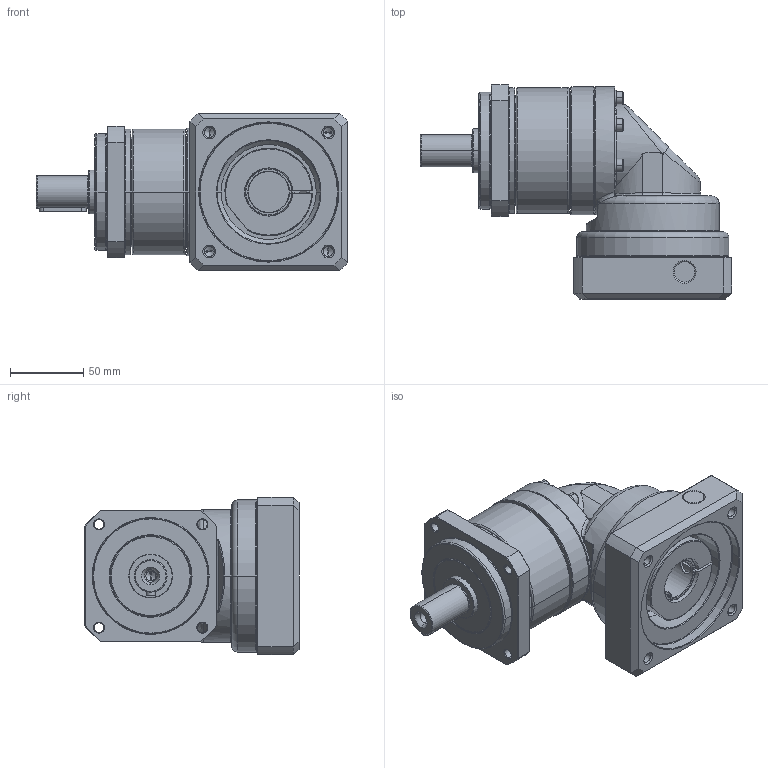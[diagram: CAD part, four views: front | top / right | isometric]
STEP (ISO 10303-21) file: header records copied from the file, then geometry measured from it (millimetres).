
FILE_DESCRIPTION((''),'2;1');
FILE_NAME('PA2R-090_1ST_28-P0411600101_ASM','2016-05-12T',('d01943'),(''),'PRO/ENGINEER BY PARAMETRIC TECHNOLOGY CORPORATION, 2008410','PRO/ENGINEER BY PARAMETRIC TECHNOLOGY CORPORATION, 2008410','');
FILE_SCHEMA(('CONFIG_CONTROL_DESIGN'));
Length unit declared in the file: millimetre
Products named in the file (12): P1327310001; P0250300001; P0350300001; P1349300001; P1017300001; P0713303001; P0503600008; P1350300301; P0411600101; P1702500001; 2111BA05025; PA2R-090_1ST_28-P0411600101_ASM
Assembly tree (16 placements, depth 2):
  PA2R-090_1ST_28-P0411600101_ASM
    P1327310001
    P0250300001
    P0350300001
    P1349300001
    P1017300001
    P0713303001
    P0503600008
    P1350300301
    P0411600101
    P1702500001
    2111BA05025  x6
Bounding box: 213 x 146.5 x 108 mm (x, y, z)
Volume: 901823.7 mm3; surface area: 221389.2 mm2
Topology: 16 solids, 16 shells, 800 faces, 1756 edges, 1016 vertices
Faces by surface type: cylinder 242, cone 230, plane 202, torus 94, bspline 32
Entity records: 23358 total; most frequent: CARTESIAN_POINT 9086, DIRECTION 3157, ORIENTED_EDGE 2760, EDGE_CURVE 1380, AXIS2_PLACEMENT_3D 1326, VERTEX_POINT 816, EDGE_LOOP 722, CIRCLE 695
